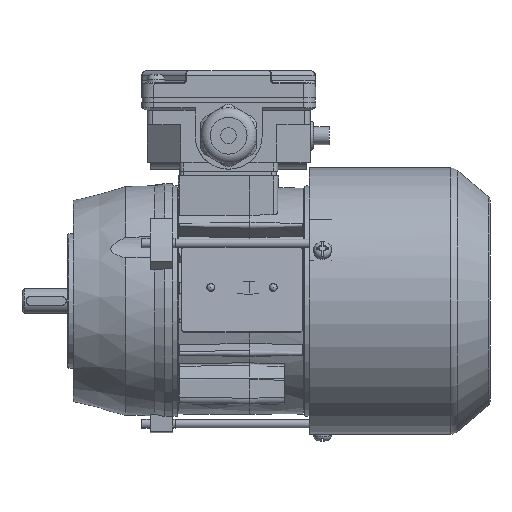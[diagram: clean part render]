
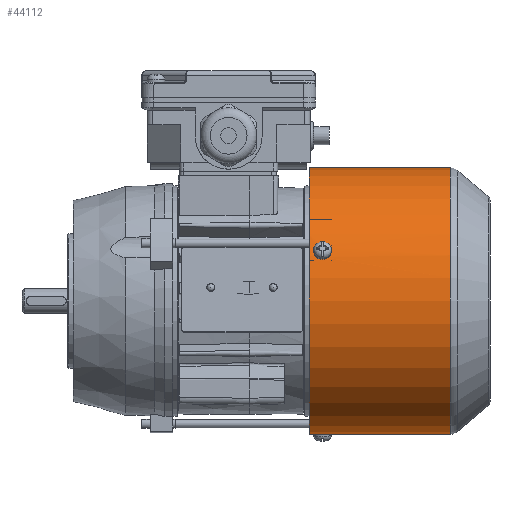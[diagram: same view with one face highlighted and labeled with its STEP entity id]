
A CAD part, front view. The second image highlights one B-rep face of the part: STEP entity #44112.
In plain terms, the highlighted cylindrical face has radius 59.6 mm (diameter 119.2 mm), a full revolution.
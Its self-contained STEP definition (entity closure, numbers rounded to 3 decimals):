
#670=B_SPLINE_CURVE_WITH_KNOTS('',3,(#58808,#58809,#58810,#58811,#58812,
#58813,#58814),.UNSPECIFIED.,.F.,.F.,(4,1,1,1,4),(0.,
0.002,0.004,0.006,0.007),
 .UNSPECIFIED.);
#671=B_SPLINE_CURVE_WITH_KNOTS('',3,(#58820,#58821,#58822,#58823,#58824,
#58825,#58826),.UNSPECIFIED.,.F.,.F.,(4,1,1,1,4),(0.,
0.002,0.004,0.006,0.007),
 .UNSPECIFIED.);
#672=B_SPLINE_CURVE_WITH_KNOTS('',3,(#58859,#58860,#58861,#58862,#58863,
#58864,#58865),.UNSPECIFIED.,.F.,.F.,(4,1,1,1,4),(0.,0.002,
0.004,0.006,0.008),
 .UNSPECIFIED.);
#673=B_SPLINE_CURVE_WITH_KNOTS('',3,(#58869,#58870,#58871,#58872,#58873,
#58874,#58875),.UNSPECIFIED.,.F.,.F.,(4,1,1,1,4),(0.,
0.002,0.004,0.006,0.008),
 .UNSPECIFIED.);
#674=B_SPLINE_CURVE_WITH_KNOTS('',3,(#58879,#58880,#58881,#58882,#58883,
#58884,#58885),.UNSPECIFIED.,.F.,.F.,(4,1,1,1,4),(0.,0.002,
0.004,0.006,0.008),
 .UNSPECIFIED.);
#675=B_SPLINE_CURVE_WITH_KNOTS('',3,(#58889,#58890,#58891,#58892,#58893,
#58894,#58895),.UNSPECIFIED.,.F.,.F.,(4,1,1,1,4),(0.,0.002,
0.004,0.006,0.008),
 .UNSPECIFIED.);
#1530=CYLINDRICAL_SURFACE('',#46010,59.6);
#7183=ORIENTED_EDGE('',*,*,#16642,.T.);
#7184=ORIENTED_EDGE('',*,*,#16643,.T.);
#7185=ORIENTED_EDGE('',*,*,#16644,.T.);
#7186=ORIENTED_EDGE('',*,*,#16645,.T.);
#7187=ORIENTED_EDGE('',*,*,#16625,.F.);
#7188=ORIENTED_EDGE('',*,*,#16628,.F.);
#7189=ORIENTED_EDGE('',*,*,#16646,.T.);
#7190=ORIENTED_EDGE('',*,*,#16647,.T.);
#7191=ORIENTED_EDGE('',*,*,#16648,.T.);
#7192=ORIENTED_EDGE('',*,*,#16649,.T.);
#7193=ORIENTED_EDGE('',*,*,#16650,.F.);
#7194=ORIENTED_EDGE('',*,*,#16651,.T.);
#16625=EDGE_CURVE('',#21389,#21390,#670,.T.);
#16628=EDGE_CURVE('',#21390,#21389,#671,.T.);
#16642=EDGE_CURVE('',#21405,#21406,#24533,.F.);
#16643=EDGE_CURVE('',#21406,#21407,#672,.T.);
#16644=EDGE_CURVE('',#21407,#21408,#24534,.F.);
#16645=EDGE_CURVE('',#21408,#21405,#673,.T.);
#16646=EDGE_CURVE('',#21409,#21410,#24535,.F.);
#16647=EDGE_CURVE('',#21410,#21411,#674,.T.);
#16648=EDGE_CURVE('',#21411,#21412,#24536,.F.);
#16649=EDGE_CURVE('',#21412,#21409,#675,.T.);
#16650=EDGE_CURVE('',#21413,#21413,#24537,.T.);
#16651=EDGE_CURVE('',#21414,#21414,#24538,.F.);
#21389=VERTEX_POINT('',#58806);
#21390=VERTEX_POINT('',#58807);
#21405=VERTEX_POINT('',#58857);
#21406=VERTEX_POINT('',#58858);
#21407=VERTEX_POINT('',#58866);
#21408=VERTEX_POINT('',#58868);
#21409=VERTEX_POINT('',#58877);
#21410=VERTEX_POINT('',#58878);
#21411=VERTEX_POINT('',#58886);
#21412=VERTEX_POINT('',#58888);
#21413=VERTEX_POINT('',#58897);
#21414=VERTEX_POINT('',#58899);
#24533=CIRCLE('',#46011,59.6);
#24534=CIRCLE('',#46012,59.6);
#24535=CIRCLE('',#46013,59.6);
#24536=CIRCLE('',#46014,59.6);
#24537=CIRCLE('',#46015,59.6);
#24538=CIRCLE('',#46016,59.6);
#25918=EDGE_LOOP('',(#7183,#7184,#7185,#7186));
#25919=EDGE_LOOP('',(#7187,#7188));
#25920=EDGE_LOOP('',(#7189,#7190,#7191,#7192));
#25921=EDGE_LOOP('',(#7193));
#25922=EDGE_LOOP('',(#7194));
#28126=FACE_BOUND('',#25918,.T.);
#28127=FACE_BOUND('',#25919,.T.);
#28128=FACE_BOUND('',#25920,.T.);
#28129=FACE_BOUND('',#25921,.T.);
#28130=FACE_BOUND('',#25922,.T.);
#44112=ADVANCED_FACE('',(#28126,#28127,#28128,#28129,#28130),#1530,.T.);
#46010=AXIS2_PLACEMENT_3D('',#58855,#49607,#49608);
#46011=AXIS2_PLACEMENT_3D('',#58856,#49609,#49610);
#46012=AXIS2_PLACEMENT_3D('',#58867,#49611,#49612);
#46013=AXIS2_PLACEMENT_3D('',#58876,#49613,#49614);
#46014=AXIS2_PLACEMENT_3D('',#58887,#49615,#49616);
#46015=AXIS2_PLACEMENT_3D('',#58896,#49617,#49618);
#46016=AXIS2_PLACEMENT_3D('',#58898,#49619,#49620);
#49607=DIRECTION('',(-1.,0.,0.));
#49608=DIRECTION('',(0.,0.,1.));
#49609=DIRECTION('',(-1.,0.,0.));
#49610=DIRECTION('',(0.,0.866,-0.5));
#49611=DIRECTION('',(1.,0.,0.));
#49612=DIRECTION('',(0.,-0.866,0.5));
#49613=DIRECTION('',(-1.,0.,0.));
#49614=DIRECTION('',(0.,0.,1.));
#49615=DIRECTION('',(1.,0.,0.));
#49616=DIRECTION('',(0.,0.,-1.));
#49617=DIRECTION('',(-1.,0.,0.));
#49618=DIRECTION('',(0.,0.,1.));
#49619=DIRECTION('',(1.,0.,0.));
#49620=DIRECTION('',(0.,0.,-1.));
#58806=CARTESIAN_POINT('',(35.,8.295,-59.02));
#58807=CARTESIAN_POINT('',(30.,8.295,-59.02));
#58808=CARTESIAN_POINT('',(35.,8.295,-59.02));
#58809=CARTESIAN_POINT('',(34.937,7.681,-59.106));
#58810=CARTESIAN_POINT('',(34.356,6.499,-59.249));
#58811=CARTESIAN_POINT('',(32.502,5.777,-59.318));
#58812=CARTESIAN_POINT('',(30.649,6.493,-59.25));
#58813=CARTESIAN_POINT('',(30.063,7.681,-59.106));
#58814=CARTESIAN_POINT('',(30.,8.295,-59.02));
#58820=CARTESIAN_POINT('',(30.,8.295,-59.02));
#58821=CARTESIAN_POINT('',(30.063,8.908,-58.934));
#58822=CARTESIAN_POINT('',(30.644,10.084,-58.746));
#58823=CARTESIAN_POINT('',(32.498,10.797,-58.613));
#58824=CARTESIAN_POINT('',(34.351,10.09,-58.745));
#58825=CARTESIAN_POINT('',(34.937,8.908,-58.934));
#58826=CARTESIAN_POINT('',(35.,8.295,-59.02));
#58855=CARTESIAN_POINT('',(-33.5,0.,0.));
#58856=CARTESIAN_POINT('',(35.,0.,0.));
#58857=CARTESIAN_POINT('',(35.,47.484,36.02));
#58858=CARTESIAN_POINT('',(35.,46.437,37.36));
#58859=CARTESIAN_POINT('',(35.,46.437,37.36));
#58860=CARTESIAN_POINT('',(35.,46.023,37.874));
#58861=CARTESIAN_POINT('',(34.458,45.191,38.867));
#58862=CARTESIAN_POINT('',(32.502,44.648,39.479));
#58863=CARTESIAN_POINT('',(30.542,45.19,38.869));
#58864=CARTESIAN_POINT('',(30.,46.023,37.874));
#58865=CARTESIAN_POINT('',(30.,46.437,37.36));
#58866=CARTESIAN_POINT('',(30.,46.437,37.36));
#58867=CARTESIAN_POINT('',(30.,0.,0.));
#58868=CARTESIAN_POINT('',(30.,47.484,36.02));
#58869=CARTESIAN_POINT('',(30.,47.484,36.02));
#58870=CARTESIAN_POINT('',(30.,47.883,35.493));
#58871=CARTESIAN_POINT('',(30.542,48.645,34.446));
#58872=CARTESIAN_POINT('',(32.498,49.108,33.771));
#58873=CARTESIAN_POINT('',(34.458,48.646,34.444));
#58874=CARTESIAN_POINT('',(35.,47.883,35.493));
#58875=CARTESIAN_POINT('',(35.,47.484,36.02));
#58876=CARTESIAN_POINT('',(35.,0.,0.));
#58877=CARTESIAN_POINT('',(35.,-54.936,23.112));
#58878=CARTESIAN_POINT('',(35.,-55.573,21.536));
#58879=CARTESIAN_POINT('',(35.,-55.573,21.536));
#58880=CARTESIAN_POINT('',(35.,-55.812,20.92));
#58881=CARTESIAN_POINT('',(34.458,-56.255,19.703));
#58882=CARTESIAN_POINT('',(32.502,-56.514,18.927));
#58883=CARTESIAN_POINT('',(30.542,-56.256,19.701));
#58884=CARTESIAN_POINT('',(30.,-55.812,20.92));
#58885=CARTESIAN_POINT('',(30.,-55.573,21.536));
#58886=CARTESIAN_POINT('',(30.,-55.573,21.536));
#58887=CARTESIAN_POINT('',(30.,0.,0.));
#58888=CARTESIAN_POINT('',(30.,-54.936,23.112));
#58889=CARTESIAN_POINT('',(30.,-54.936,23.112));
#58890=CARTESIAN_POINT('',(30.,-54.68,23.721));
#58891=CARTESIAN_POINT('',(30.542,-54.154,24.905));
#58892=CARTESIAN_POINT('',(32.498,-53.8,25.643));
#58893=CARTESIAN_POINT('',(34.458,-54.153,24.907));
#58894=CARTESIAN_POINT('',(35.,-54.68,23.721));
#58895=CARTESIAN_POINT('',(35.,-54.936,23.112));
#58896=CARTESIAN_POINT('',(26.5,0.,0.));
#58897=CARTESIAN_POINT('',(26.5,0.,59.6));
#58898=CARTESIAN_POINT('',(89.809,0.,0.));
#58899=CARTESIAN_POINT('',(89.809,0.,-59.6));
